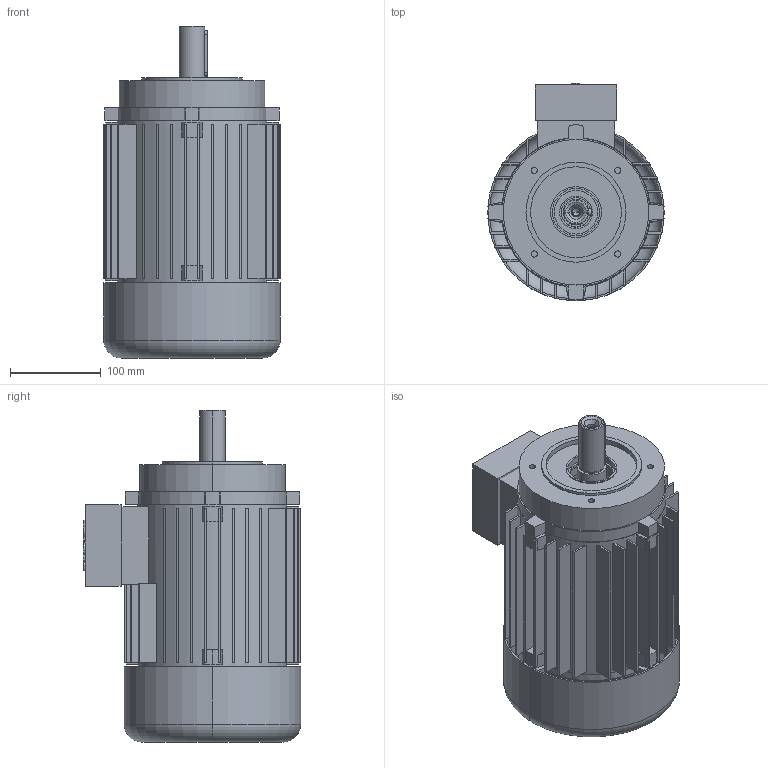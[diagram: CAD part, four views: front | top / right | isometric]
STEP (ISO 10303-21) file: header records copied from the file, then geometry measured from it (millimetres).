
FILE_DESCRIPTION (( 'STEP AP203' ), '1' );
FILE_NAME ('5AZ 100 B14_small STANDK.STEP', '2017-11-10T10:39:44', ( '' ), ( '' ), 'SwSTEP 2.0', 'SolidWorks 2017', '' );
FILE_SCHEMA (( 'CONFIG_CONTROL_DESIGN' ));
Length unit declared in the file: millimetre
Products named in the file (1): 5AZ 100 B14_small STANDK
Bounding box: 194 x 239 x 365 mm (x, y, z)
Volume: 2367064.9 mm3; surface area: 740775.4 mm2
Topology: 7 solids, 7 shells, 459 faces, 1163 edges, 767 vertices
Faces by surface type: plane 295, cylinder 129, cone 18, bspline 9, torus 8
Entity records: 14049 total; most frequent: CARTESIAN_POINT 2597, DIRECTION 2427, ORIENTED_EDGE 2322, EDGE_CURVE 1161, AXIS2_PLACEMENT_3D 845, VERTEX_POINT 767, LINE 737, VECTOR 737
